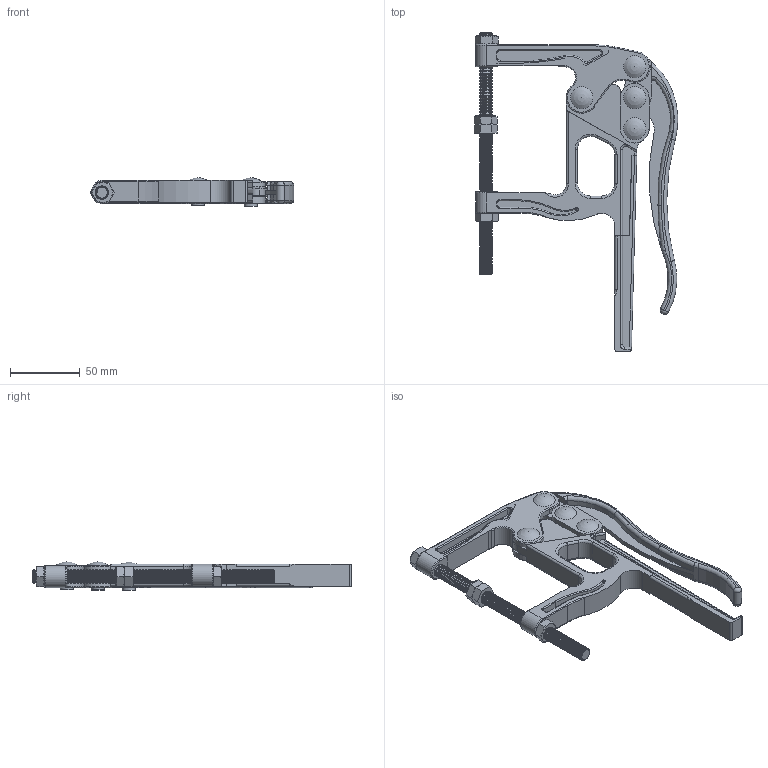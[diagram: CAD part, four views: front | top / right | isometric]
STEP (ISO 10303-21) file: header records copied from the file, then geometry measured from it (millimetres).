
FILE_DESCRIPTION(/* description */ (''),/* implementation_level */ '2;1');
FILE_NAME(/* name */ 'C:\Users\Nick\Desktop\C-1203 -2S\3D\C-1203-2S.step',/* time_stamp */ '2016-05-17T14:44:33-04:00',/* author */ ('Nick'),/* organization */ (''),/* preprocessor_version */ 'ST-DEVELOPER v16.1',/* originating_system */ 'AutoCAD Mechanical',/* authorisation */ '');
FILE_SCHEMA (('AUTOMOTIVE_DESIGN { 1 0 10303 214 3 1 1 }'));
Length unit declared in the file: inch
Products named in the file (1): Product
Bounding box: 146.14 x 228.92 x 20.57 mm (x, y, z)
Volume: 146538.2 mm3; surface area: 72657.7 mm2
Topology: 14 solids, 16 shells, 600 faces, 1410 edges, 852 vertices
Faces by surface type: cylinder 188, plane 172, cone 152, torus 76, bspline 8, sphere 4
Full cylindrical faces by diameter (mm): 8.136 x2, 9.474 x4, 9.485 x1, 9.525 x12, 14.214 x1
Entity records: 30393 total; most frequent: CARTESIAN_POINT 17094, DIRECTION 2934, ORIENTED_EDGE 2524, EDGE_CURVE 1260, AXIS2_PLACEMENT_3D 1222, VERTEX_POINT 839, EDGE_LOOP 781, CIRCLE 607
